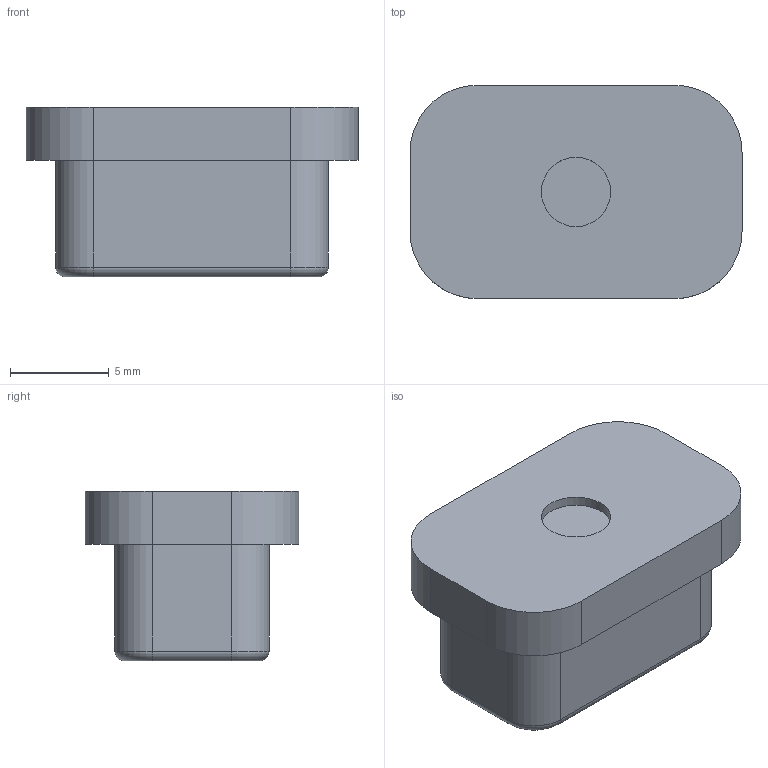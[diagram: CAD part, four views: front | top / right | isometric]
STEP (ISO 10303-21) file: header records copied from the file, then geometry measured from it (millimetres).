
FILE_DESCRIPTION(/* description */ ('STEP AP242','CAx-IF Rec.Pracs.---Representation and Presentation of Product Manufacturing Information (PMI)---4.0---2014-10-13','CAx-IF Rec.Pracs.---3D Tessellated Geometry---0.4---2014-09-14','2;1'),/* implementation_level */ '2;1');
FILE_NAME(/* name */ '687e6ae9f344454910d47ce9',/* time_stamp */ '2025-07-21T16:29:30Z',/* author */ (''),/* organization */ (''),/* preprocessor_version */ 'ST-DEVELOPER v20',/* originating_system */ 'ONSHAPE BY PTC INC, 1.201',/* authorisation */ ' ');
FILE_SCHEMA (('AP242_MANAGED_MODEL_BASED_3D_ENGINEERING_MIM_LF { 1 0 10303 442 1 1 4 }'));
Length unit declared in the file: metre
Products named in the file (1): Aux Button
Bounding box: 16.8 x 10.8 x 8.6 mm (x, y, z)
Volume: 1073 mm3; surface area: 708.8 mm2
Topology: 1 solids, 1 shells, 29 faces, 67 edges, 42 vertices
Faces by surface type: cylinder 13, plane 12, torus 4
Full cylindrical faces by diameter (mm): 3.5 x1
Entity records: 844 total; most frequent: DIRECTION 156, CARTESIAN_POINT 138, ORIENTED_EDGE 132, EDGE_CURVE 66, AXIS2_PLACEMENT_3D 60, VERTEX_POINT 42, LINE 36, VECTOR 36
